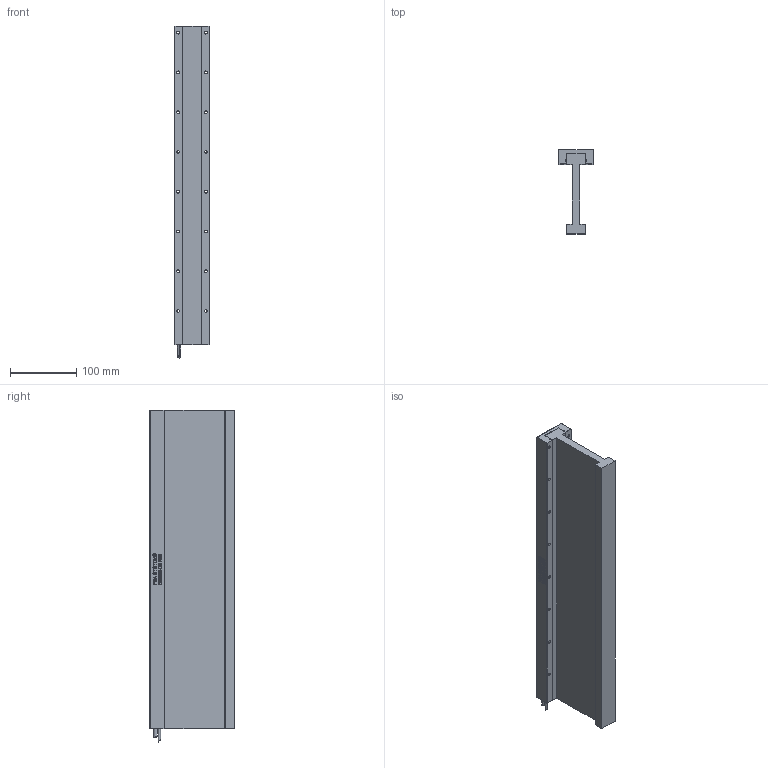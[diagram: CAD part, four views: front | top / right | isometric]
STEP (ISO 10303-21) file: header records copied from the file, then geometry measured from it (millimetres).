
FILE_DESCRIPTION (( 'STEP AP214' ), '1' );
FILE_NAME ('DX90B-C8-000.STEP', '2016-05-09T09:46:46', ( '' ), ( '' ), 'SwSTEP 2.0', 'SolidWorks 2015', '' );
FILE_SCHEMA (( 'AUTOMOTIVE_DESIGN' ));
Length unit declared in the file: millimetre
Products named in the file (5): DX90B-C8-001_CUSTOMER; CBL_MTR_HALL_SS_5C_SA (#2935-1); CBL_MTR_PWR_SS_7C2C_SA (#2936-1); DX90B-CX-002_C8; DX90B-C8-000
Assembly tree (4 placements, depth 2):
  DX90B-C8-000
    DX90B-CX-002_C8
    CBL_MTR_PWR_SS_7C2C_SA (#2936-1)
    CBL_MTR_HALL_SS_5C_SA (#2935-1)
    DX90B-C8-001_CUSTOMER
Bounding box: 52 x 127 x 501 mm (x, y, z)
Volume: 1227226 mm3; surface area: 256167.7 mm2
Topology: 4 solids, 4 shells, 734 faces, 1944 edges, 1288 vertices
Faces by surface type: plane 367, bspline 324, cylinder 43
Entity records: 40813 total; most frequent: CARTESIAN_POINT 24097, ORIENTED_EDGE 3888, DIRECTION 2213, EDGE_CURVE 1944, VERTEX_POINT 1288, VECTOR 1213, LINE 1213, EDGE_LOOP 836
